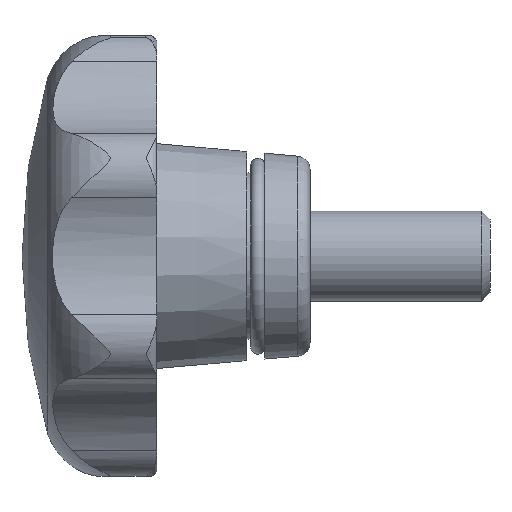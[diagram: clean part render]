
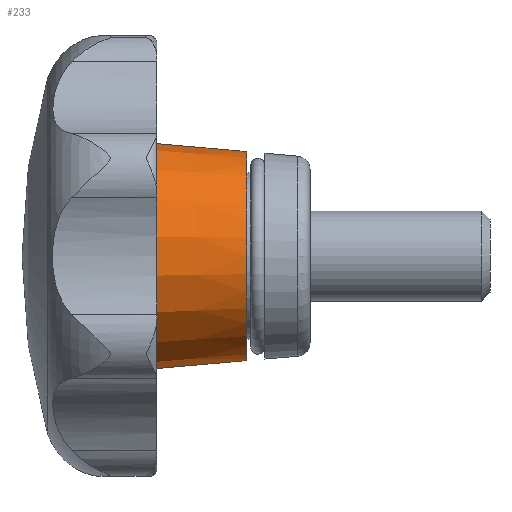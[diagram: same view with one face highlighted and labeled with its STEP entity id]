
A CAD part, left-side view. The second image highlights one B-rep face of the part: STEP entity #233.
In plain terms, the highlighted conical face has half-angle 5 degrees and reference radius 13.109 mm.
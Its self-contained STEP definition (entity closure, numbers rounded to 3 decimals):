
#233 = ADVANCED_FACE( '', ( #482, #483 ), #484, .T. );
#482 = FACE_BOUND( '', #864, .T. );
#483 = FACE_OUTER_BOUND( '', #865, .T. );
#484 = CONICAL_SURFACE( '', #866, 13.109, 0.087 );
#864 = EDGE_LOOP( '', ( #1578 ) );
#865 = EDGE_LOOP( '', ( #1579 ) );
#866 = AXIS2_PLACEMENT_3D( '', #1580, #1581, #1582 );
#1578 = ORIENTED_EDGE( '', *, *, #2622, .F. );
#1579 = ORIENTED_EDGE( '', *, *, #2623, .T. );
#1580 = CARTESIAN_POINT( '', ( 0., 24.053, 0. ) );
#1581 = DIRECTION( '', ( 0., 1., 0. ) );
#1582 = DIRECTION( '', ( 0., 0., 1. ) );
#2622 = EDGE_CURVE( '', #3214, #3214, #3215, .T. );
#2623 = EDGE_CURVE( '', #3216, #3216, #3217, .T. );
#3214 = VERTEX_POINT( '', #4856 );
#3215 = CIRCLE( '', #4857, 11.617 );
#3216 = VERTEX_POINT( '', #4858 );
#3217 = CIRCLE( '', #4859, 13.109 );
#4856 = CARTESIAN_POINT( '', ( 0., 7., -11.617 ) );
#4857 = AXIS2_PLACEMENT_3D( '', #5615, #5616, #5617 );
#4858 = CARTESIAN_POINT( '', ( 0., 24.053, -13.109 ) );
#4859 = AXIS2_PLACEMENT_3D( '', #5618, #5619, #5620 );
#5615 = CARTESIAN_POINT( '', ( 0., 7., 0. ) );
#5616 = DIRECTION( '', ( 0., -1., 0. ) );
#5617 = DIRECTION( '', ( 0., 0., -1. ) );
#5618 = CARTESIAN_POINT( '', ( 0., 24.053, 0. ) );
#5619 = DIRECTION( '', ( 0., -1., 0. ) );
#5620 = DIRECTION( '', ( 0., 0., -1. ) );
